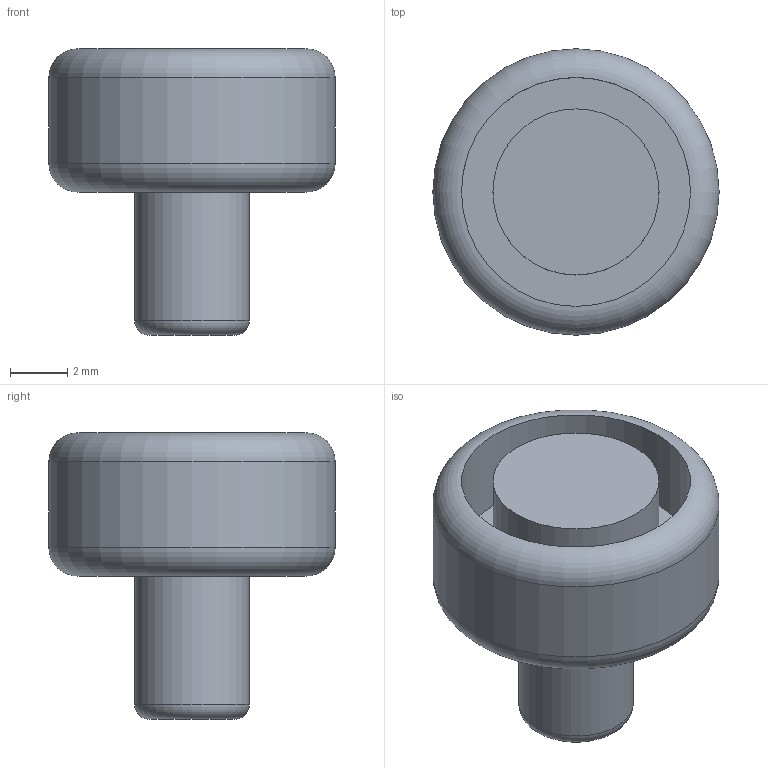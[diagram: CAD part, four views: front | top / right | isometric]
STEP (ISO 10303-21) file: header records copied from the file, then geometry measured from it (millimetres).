
FILE_DESCRIPTION(/* description */ (''),/* implementation_level */ '2;1');
FILE_NAME(/* name */ 'V:\Flow\Inventor\PEEK\BPR\Stempel unten 6mmID.stp',/* time_stamp */ '2019-12-20T10:08:05+01:00',/* author */ ('JN'),/* organization */ (''),/* preprocessor_version */ 'ST-DEVELOPER v17',/* originating_system */ 'Autodesk Inventor 2018',/* authorisation */ '');
FILE_SCHEMA (('AUTOMOTIVE_DESIGN { 1 0 10303 214 3 1 1 }'));
Length unit declared in the file: millimetre
Products named in the file (1): Stempel unten
Bounding box: 10 x 10 x 10 mm (x, y, z)
Volume: 370.5 mm3; surface area: 476.4 mm2
Topology: 1 solids, 1 shells, 11 faces, 19 edges, 12 vertices
Faces by surface type: cylinder 4, plane 4, torus 3
Full cylindrical faces by diameter (mm): 4 x1, 5.8 x1, 8 x1, 10 x1
Entity records: 311 total; most frequent: DIRECTION 58, CARTESIAN_POINT 43, ORIENTED_EDGE 38, AXIS2_PLACEMENT_3D 27, EDGE_CURVE 19, CIRCLE 15, EDGE_LOOP 13, VERTEX_POINT 12
